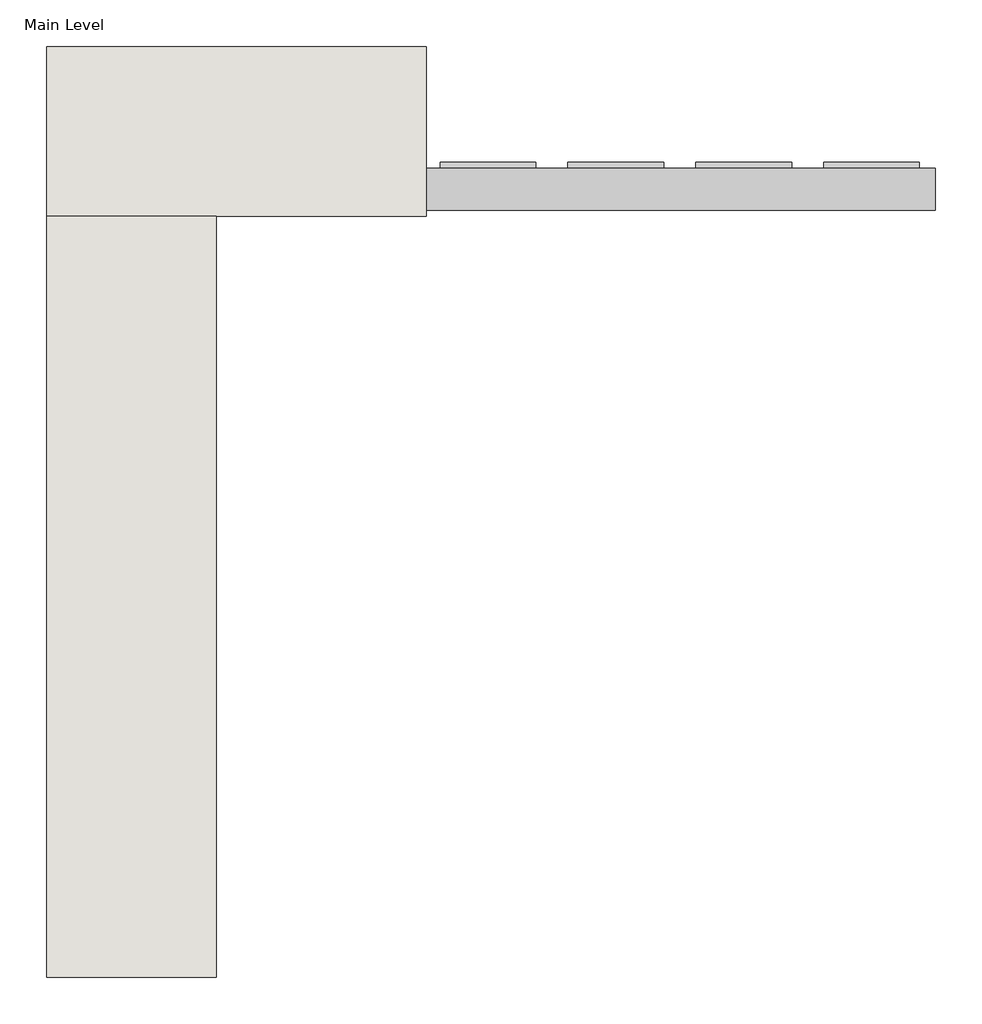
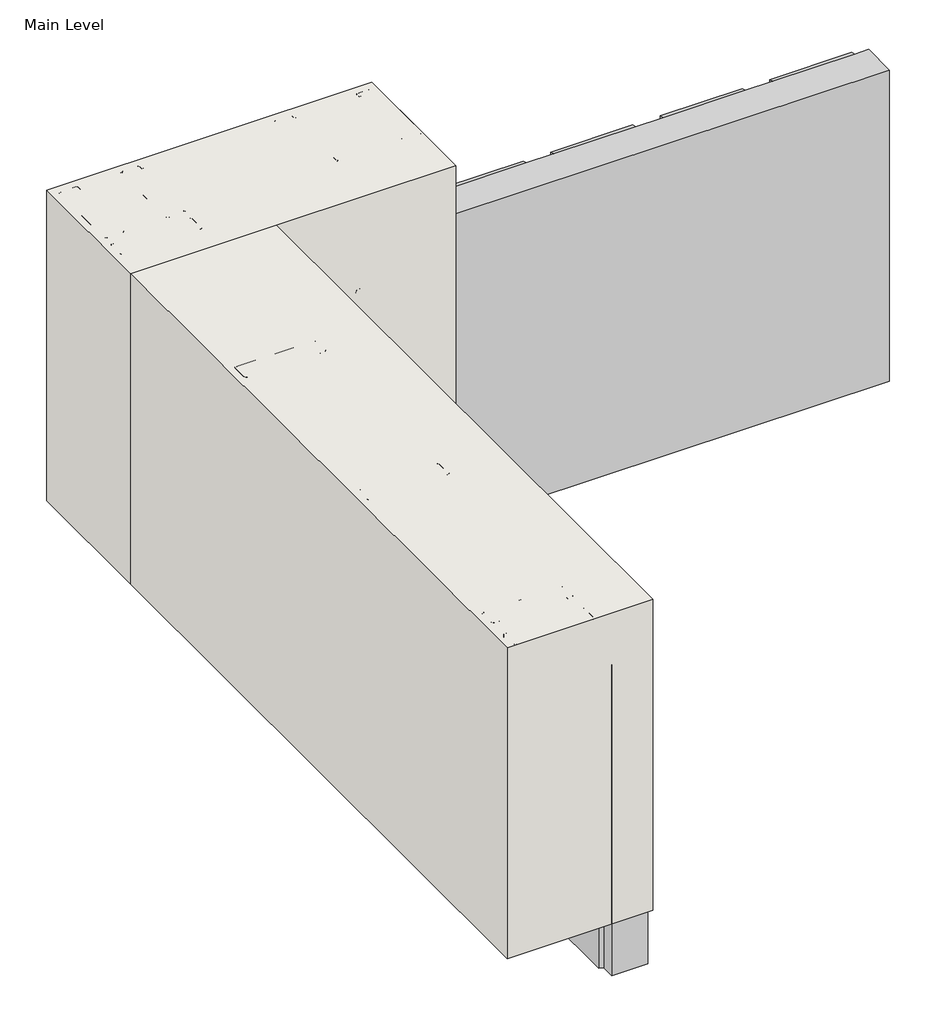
# One storey, incomplete: 21 proxies, 2 walls.
"""IFC4 building model written with IfcOpenShell, lengths in millimetres."""

from ifc_helpers import new_model, si_unit, origin, origin_with_axes, place, context, project, spatial, polyline, outline, extrude, faceted_brep, transform, mapped, element, save
from components import generic_models_03ec6e0e, generic_models_b9febd00, generic_models_feffb954, generic_models_a84ea892, generic_models_29651a44, generic_models_8c792c9c, generic_models_036b76f6, generic_models_34061f7e, proxy_215900e5, proxy_63d6b373, proxy_d4c17246

model = new_model("IFC4")

# Units and contexts
model_context = context("Model", 3, world=origin())
ifc_project = project(units=[si_unit("LENGTHUNIT", "METRE", prefix="MILLI")], contexts=[model_context])

# Site, building, storey
site = spatial("IfcSite", under=ifc_project)
building = spatial("IfcBuilding", under=site)
storey = spatial("IfcBuildingStorey", under=building, Name="Main Level", Elevation=0.0)

# Proxies
placement = place(None, origin())
generic_models_shape = generic_models_03ec6e0e(model_context)
element("IfcBuildingElementProxy", 1, Name="CRAi Generic Model Drywall Screw : CRAi Generic Model Drywall Screw", ObjectType="CRAi Generic Model Drywall Screw : CRAi Generic Model Drywall Screw", at=placement, inside=storey, context=model_context, shape_type="MappedRepresentation", body=[
    mapped(generic_models_shape, transform((27336.1039273, 608.5816297, 584.2), x_axis=(0.0, 1.0, 0.0), y_axis=(0.0, 0.0, 1.0), z_axis=(1.0, 0.0, 0.0))),
])
element("IfcBuildingElementProxy", 2, Name="CRAi Generic Model Drywall Screw : CRAi Generic Model Drywall Screw", ObjectType="CRAi Generic Model Drywall Screw : CRAi Generic Model Drywall Screw", at=placement, inside=storey, context=model_context, shape_type="MappedRepresentation", body=[
    mapped(generic_models_shape, transform((27301.1789273, 627.6316297, 584.2), x_axis=(1.0, 0.0, 0.0), y_axis=(0.0, 0.0, 1.0), z_axis=(0.0, -1.0, 0.0))),
])
element("IfcBuildingElementProxy", 3, Name="CRAi Generic Model Drywall Screw : CRAi Generic Model Drywall Screw", ObjectType="CRAi Generic Model Drywall Screw : CRAi Generic Model Drywall Screw", at=placement, inside=storey, context=model_context, shape_type="MappedRepresentation", body=[
    mapped(generic_models_shape, transform((27186.8789273, 627.6316297, 584.2), x_axis=(1.0, 0.0, 0.0), y_axis=(0.0, 0.0, 1.0), z_axis=(0.0, -1.0, 0.0))),
])
element("IfcBuildingElementProxy", 4, Name="CRAi Generic Model Drywall Screw : CRAi Generic Model Drywall Screw", ObjectType="CRAi Generic Model Drywall Screw : CRAi Generic Model Drywall Screw", at=placement, inside=storey, context=model_context, shape_type="MappedRepresentation", body=[
    mapped(generic_models_shape, transform((27583.7489273, 627.6316297, 584.2), x_axis=(1.0, 0.0, 0.0), y_axis=(0.0, 0.0, 1.0), z_axis=(0.0, -1.0, 0.0))),
])
element("IfcBuildingElementProxy", 5, Name="CRAi Generic Model Drywall Screw : CRAi Generic Model Drywall Screw", ObjectType="CRAi Generic Model Drywall Screw : CRAi Generic Model Drywall Screw", at=placement, inside=storey, context=model_context, shape_type="MappedRepresentation", body=[
    mapped(generic_models_shape, transform((27336.1039273, 211.7116297, 584.2), x_axis=(0.0, 1.0, 0.0), y_axis=(0.0, 0.0, 1.0), z_axis=(1.0, 0.0, 0.0))),
])
element("IfcBuildingElementProxy", 6, Name="CRAi Generic Model Drywall Screw : CRAi Generic Model Drywall Screw", ObjectType="CRAi Generic Model Drywall Screw : CRAi Generic Model Drywall Screw", at=placement, inside=storey, context=model_context, shape_type="MappedRepresentation", body=[
    mapped(generic_models_shape, transform((27336.1039273, -194.6883703, 584.2), x_axis=(0.0, 1.0, 0.0), y_axis=(0.0, 0.0, 1.0), z_axis=(1.0, 0.0, 0.0))),
])
element("IfcBuildingElementProxy", 7, Name="CRAi Generic Model Drywall Screw : CRAi Generic Model Drywall Screw", ObjectType="CRAi Generic Model Drywall Screw : CRAi Generic Model Drywall Screw", at=placement, inside=storey, context=model_context, shape_type="MappedRepresentation", body=[
    mapped(generic_models_shape, transform((27336.1039273, -601.0883703, 584.2), x_axis=(0.0, 1.0, 0.0), y_axis=(0.0, 0.0, 1.0), z_axis=(1.0, 0.0, 0.0))),
])
generic_models_2_shape = generic_models_b9febd00(model_context)
generic_models_3_shape = generic_models_feffb954(model_context)
generic_models_4_shape = generic_models_a84ea892(model_context)
generic_models_5_shape = generic_models_29651a44(model_context)
element("IfcBuildingElementProxy", 8, Name="CRAi Generic Model Mesh Piece Face Based : Wider Mesh", ObjectType="CRAi Generic Model Mesh Piece Face Based : Wider Mesh", at=placement, inside=storey, context=model_context, shape_type="MappedRepresentation", body=[
    mapped(generic_models_2_shape, transform((27588.5164273, 541.9066297, 215.9), x_axis=(0.0, 0.0, 1.0), y_axis=(-1.0, 0.0, 0.0), z_axis=(0.0, -1.0, 0.0))),
    mapped(generic_models_3_shape, transform((27588.5164273, 541.9066297, 215.9), x_axis=(0.0, 0.0, 1.0), y_axis=(-1.0, 0.0, 0.0), z_axis=(0.0, -1.0, 0.0))),
    mapped(generic_models_4_shape, transform((27588.5164273, 541.9066297, 215.9), x_axis=(0.0, 0.0, 1.0), y_axis=(-1.0, 0.0, 0.0), z_axis=(0.0, -1.0, 0.0))),
    mapped(generic_models_5_shape, transform((27588.5164273, 541.9066297, 215.9), x_axis=(0.0, 0.0, 1.0), y_axis=(-1.0, 0.0, 0.0), z_axis=(0.0, -1.0, 0.0))),
])
generic_models_6_shape = generic_models_8c792c9c(model_context)
element("IfcBuildingElementProxy", 9, Name="Durabond Generic Model Screw w Standard Wall Plate : Durabond Generic Model Screw w Standard Wall Plate", ObjectType="Durabond Generic Model Screw w Standard Wall Plate : Durabond Generic Model Screw w Standard Wall Plate", at=placement, inside=storey, context=model_context, shape_type="MappedRepresentation", body=[
    mapped(generic_models_6_shape, transform((27419.4476773, 211.7116297, 419.1), x_axis=(0.0, 1.0, 0.0), y_axis=(0.0, 0.0, 1.0), z_axis=(1.0, 0.0, 0.0))),
])
element("IfcBuildingElementProxy", 10, Name="Durabond Generic Model Screw w Standard Wall Plate : Durabond Generic Model Screw w Standard Wall Plate", ObjectType="Durabond Generic Model Screw w Standard Wall Plate : Durabond Generic Model Screw w Standard Wall Plate", at=placement, inside=storey, context=model_context, shape_type="MappedRepresentation", body=[
    mapped(generic_models_6_shape, transform((27415.4789273, 510.1566297, 469.9), x_axis=(0.0, -1.0, 0.0), y_axis=(0.0, 0.0, -1.0), z_axis=(1.0, 0.0, 0.0))),
])
element("IfcBuildingElementProxy", 11, Name="Durabond Generic Model Screw w Standard Wall Plate : Durabond Generic Model Screw w Standard Wall Plate", ObjectType="Durabond Generic Model Screw w Standard Wall Plate : Durabond Generic Model Screw w Standard Wall Plate", at=placement, inside=storey, context=model_context, shape_type="MappedRepresentation", body=[
    mapped(generic_models_6_shape, transform((27419.4476773, -194.6883703, 419.1), x_axis=(0.0, 1.0, 0.0), y_axis=(0.0, 0.0, 1.0), z_axis=(1.0, 0.0, 0.0))),
])
element("IfcBuildingElementProxy", 12, Name="Durabond Generic Model Screw w Standard Wall Plate : Durabond Generic Model Screw w Standard Wall Plate", ObjectType="Durabond Generic Model Screw w Standard Wall Plate : Durabond Generic Model Screw w Standard Wall Plate", at=placement, inside=storey, context=model_context, shape_type="MappedRepresentation", body=[
    mapped(generic_models_6_shape, transform((27419.4476773, -601.0883703, 419.1), x_axis=(0.0, 1.0, 0.0), y_axis=(0.0, 0.0, 1.0), z_axis=(1.0, 0.0, 0.0))),
])
element("IfcBuildingElementProxy", 13, Name="Durabond Generic Model Screw w Standard Wall Plate : Durabond Generic Model Screw w Standard Wall Plate", ObjectType="Durabond Generic Model Screw w Standard Wall Plate : Durabond Generic Model Screw w Standard Wall Plate", at=placement, inside=storey, context=model_context, shape_type="MappedRepresentation", body=[
    mapped(generic_models_6_shape, transform((27415.4789273, -556.6433703, 469.9), x_axis=(0.0, -1.0, 0.0), y_axis=(0.0, 0.0, -1.0), z_axis=(1.0, 0.0, 0.0))),
])
element("IfcBuildingElementProxy", 14, Name="Durabond Generic Model Screw w Standard Wall Plate : Durabond Generic Model Screw w Standard Wall Plate", ObjectType="Durabond Generic Model Screw w Standard Wall Plate : Durabond Generic Model Screw w Standard Wall Plate", at=placement, inside=storey, context=model_context, shape_type="MappedRepresentation", body=[
    mapped(generic_models_6_shape, transform((27453.5789273, 548.2566297, 469.9), x_axis=(1.0, 0.0, 0.0), y_axis=(0.0, 0.0, 1.0), z_axis=(0.0, -1.0, 0.0))),
])
element("IfcBuildingElementProxy", 15, Name="Durabond Generic Model Screw w Standard Wall Plate : Durabond Generic Model Screw w Standard Wall Plate", ObjectType="Durabond Generic Model Screw w Standard Wall Plate : Durabond Generic Model Screw w Standard Wall Plate", at=placement, inside=storey, context=model_context, shape_type="MappedRepresentation", body=[
    mapped(generic_models_6_shape, transform((27583.7489273, 544.2878797, 419.1), x_axis=(1.0, 0.0, 0.0), y_axis=(0.0, 0.0, 1.0), z_axis=(0.0, -1.0, 0.0))),
])
generic_models_7_shape = generic_models_036b76f6(model_context)
element("IfcBuildingElementProxy", 16, Name="Durabond Generic Model Metal Stud Array Right : CRAi Generic Model Metal Stud Array", ObjectType="Durabond Generic Model Metal Stud Array Right : CRAi Generic Model Metal Stud Array", at=placement, inside=storey, context=model_context, shape_type="MappedRepresentation", body=[
    mapped(generic_models_7_shape, transform((27244.0289273, -1840.9433703, 0.0), x_axis=(0.0, 1.0, 0.0), y_axis=(-1.0, 0.0, 0.0), z_axis=(0.0, 0.0, 1.0))),
])
generic_models_8_shape = generic_models_34061f7e(model_context)
element("IfcBuildingElementProxy", 17, Name="Durabond Generic Model Metal Stud Array Right : CRAi Generic Model Metal Stud Array", ObjectType="Durabond Generic Model Metal Stud Array Right : CRAi Generic Model Metal Stud Array", at=placement, inside=storey, context=model_context, shape_type="MappedRepresentation", body=[
    mapped(generic_models_8_shape, transform((29636.4039273, 719.7066297, 0.0), x_axis=(-1.0, 0.0, 0.0), y_axis=(0.0, -1.0, 0.0), z_axis=(0.0, 0.0, 1.0))),
])
proxy_shape = proxy_215900e5(model_context)
element("IfcBuildingElementProxy", 18, Name="Durabond Generic Model Insulite Select Extruded Insulation Board : 3\"", ObjectType="Durabond Generic Model Insulite Select Extruded Insulation Board : 3\"", at=placement, inside=storey, context=model_context, shape_type="MappedRepresentation", body=[
    mapped(proxy_shape, transform((27958.4039273, 624.4566297, 203.2), x_axis=(1.0, 0.0, 0.0), y_axis=(0.0, 0.0, 1.0), z_axis=(0.0, -1.0, 0.0))),
])
element("IfcBuildingElementProxy", 19, Name="Durabond Generic Model Insulite Select Extruded Insulation Board : 3\"", ObjectType="Durabond Generic Model Insulite Select Extruded Insulation Board : 3\"", at=placement, inside=storey, context=model_context, shape_type="MappedRepresentation", body=[
    mapped(proxy_shape, transform((27339.2789273, -61.3433703, 203.2), x_axis=(0.0, -1.0, 0.0), y_axis=(0.0, 0.0, -1.0), z_axis=(1.0, 0.0, 0.0))),
])
proxy_2_shape = proxy_63d6b373(model_context)
element("IfcBuildingElementProxy", 20, Name="Durabond Generic Model Corner 90 Membrane : 4\" Barrier Seam Tape", ObjectType="Durabond Generic Model Corner 90 Membrane : 4\" Barrier Seam Tape", at=placement, inside=storey, context=model_context, shape_type="MappedRepresentation", body=[
    mapped(proxy_2_shape, transform((27336.8976773, 626.8378797, 0.0), x_axis=(-1.0, 0.0, 0.0), y_axis=(0.0, -1.0, 0.0), z_axis=(0.0, 0.0, 1.0))),
])
proxy_3_shape = proxy_d4c17246(model_context)
element("IfcBuildingElementProxy", 21, Name="CRAi Generic Model Metal Stud : Metal Framing Stud - 1\" x 3.5\"", ObjectType="CRAi Generic Model Metal Stud : Metal Framing Stud - 1\" x 3.5\"", at=placement, inside=storey, context=model_context, shape_type="MappedRepresentation", body=[
    mapped(proxy_3_shape, transform((27301.1789273, 719.7066297, 0.0), x_axis=(1.0, 0.0, 0.0), y_axis=(0.0, 1.0, 0.0), z_axis=(0.0, 0.0, 1.0))),
])

# Walls
element("IfcWall", 22, ObjectType="189mm (7.5”) EIFS Field Applied on Mtl. Stud Layer - 50mm Grooved Insulation Board Metal Stud Wall(AirStop) 2", at=placement, inside=storey, context=model_context, shape_type="SweptSolid", body=[
    extrude(outline(polyline([(27425.0039273, 538.7316297), (27425.0039273, -670.9433703), (27155.1289273, -670.9433703), (27155.1289273, 538.7316297), (27425.0039273, 538.7316297)])), origin_with_axes(), (0.0, 0.0, 1.0), 609.6),
])
element("IfcWall", 23, ObjectType="189mm (7.5”) EIFS Field Applied on Mtl. Stud Layer - 50mm Grooved Insulation Board Metal Stud Wall(AirStop) 2", at=placement, inside=storey, context=model_context, shape_type="Brep", body=[
    faceted_brep([(27155.1289273, 538.7316297, 0.0), (27425.0039273, 538.7316297, 0.0), (27758.3789273, 538.7316297, 0.0), (27758.3789273, 538.7316297, 609.6), (27425.0039273, 538.7316297, 609.6), (27155.1289273, 538.7316297, 609.6), (27155.1289273, 808.6066297, 0.0), (27155.1289273, 808.6066297, 609.6), (27758.3789273, 808.6066297, 609.6), (27758.3789273, 808.6066297, 0.0)], [[[0, 1, 2, 3, 4, 5]], [[6, 7, 8, 9]], [[2, 1, 0, 6, 9]], [[3, 2, 9, 8]], [[5, 4, 3, 8, 7]], [[0, 5, 7, 6]]]),
])

save(model, "model.ifc")
